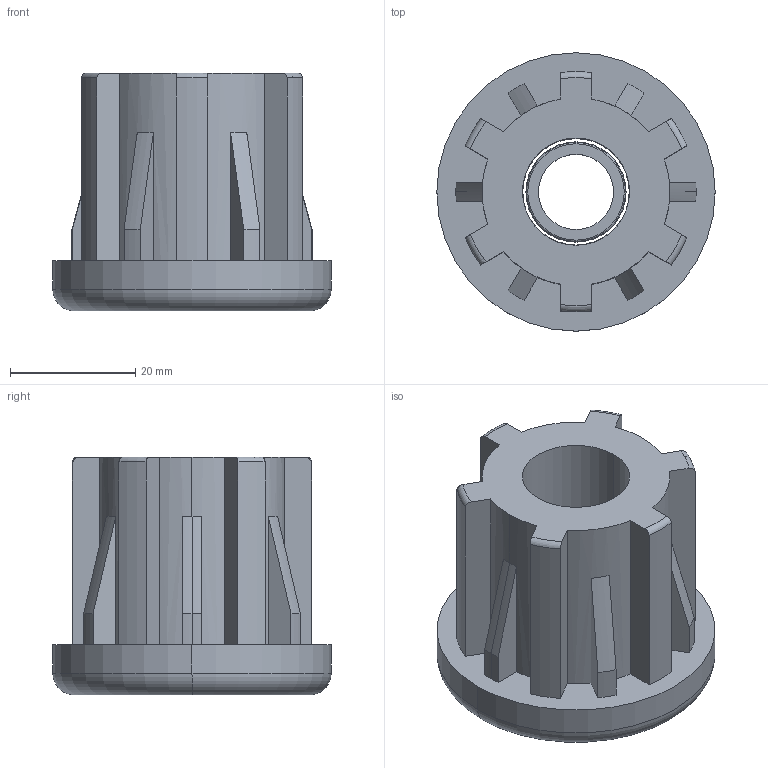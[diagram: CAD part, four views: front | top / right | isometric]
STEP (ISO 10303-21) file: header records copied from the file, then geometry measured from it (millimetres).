
FILE_DESCRIPTION (( 'STEP AP214' ), '1' );
FILE_NAME ('42006442212.STEP', '2020-02-25T17:04:19', ( '' ), ( '' ), 'SwSTEP 2.0', 'SolidWorks 2018', '' );
FILE_SCHEMA (( 'AUTOMOTIVE_DESIGN' ));
Length unit declared in the file: millimetre
Products named in the file (4): BC_M12.stp; 42006442212; Disegno1.stp; 42006442212.stp
Assembly tree (3 placements, depth 3):
  42006442212
    42006442212.stp
      Disegno1.stp
      BC_M12.stp
Bounding box: 44.45 x 44.45 x 38 mm (x, y, z)
Volume: 29302.1 mm3; surface area: 11627.9 mm2
Topology: 2 solids, 2 shells, 89 faces, 232 edges, 150 vertices
Faces by surface type: cylinder 36, plane 31, cone 12, torus 10
Entity records: 3036 total; most frequent: CARTESIAN_POINT 664, DIRECTION 500, ORIENTED_EDGE 464, EDGE_CURVE 232, AXIS2_PLACEMENT_3D 196, VERTEX_POINT 150, LINE 108, VECTOR 108
